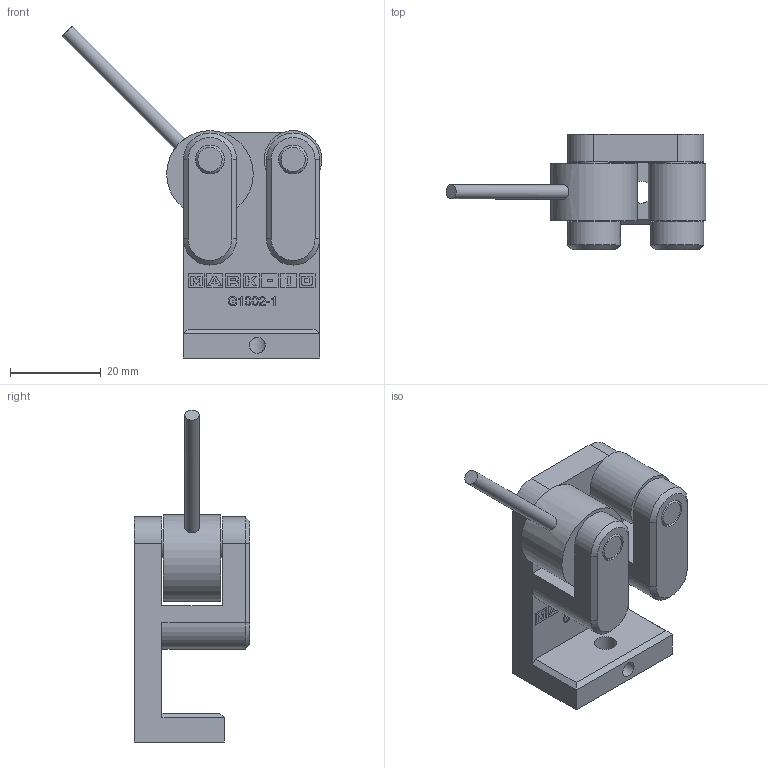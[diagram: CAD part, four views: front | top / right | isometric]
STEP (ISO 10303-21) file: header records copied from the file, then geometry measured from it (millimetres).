
FILE_DESCRIPTION((''),'2;1');
FILE_NAME('F:\CAD files\Itr\3D MARKETING MODELS\GRIPS\G1002\G1002.stp','2017-04-19T12:47:26',('mlampen'),(''),'Autodesk Inventor 2010','Autodesk Inventor 2010','');
FILE_SCHEMA(('AUTOMOTIVE_DESIGN { 1 0 10303 214 1 1 1 1 }'));
Length unit declared in the file: inch
Products named in the file (3): Assembly1; Part2; Part4
Assembly tree (2 placements, depth 2):
  Assembly1
    Part2
    Part4
Bounding box: 57.19 x 25.4 x 73.07 mm (x, y, z)
Volume: 23164.1 mm3; surface area: 11290.7 mm2
Topology: 3 solids, 3 shells, 416 faces, 1128 edges, 749 vertices
Faces by surface type: plane 375, cylinder 33, cone 8
Full cylindrical faces by diameter (mm): 3.175 x1, 3.505 x1, 4.826 x1, 6.325 x2, 6.35 x2, 6.363 x2, 6.375 x2, 12.7 x1, 19.05 x1
Entity records: 12918 total; most frequent: CARTESIAN_POINT 2337, ORIENTED_EDGE 2212, DIRECTION 2018, EDGE_CURVE 1106, VECTOR 1032, LINE 1032, VERTEX_POINT 744, AXIS2_PLACEMENT_3D 493
